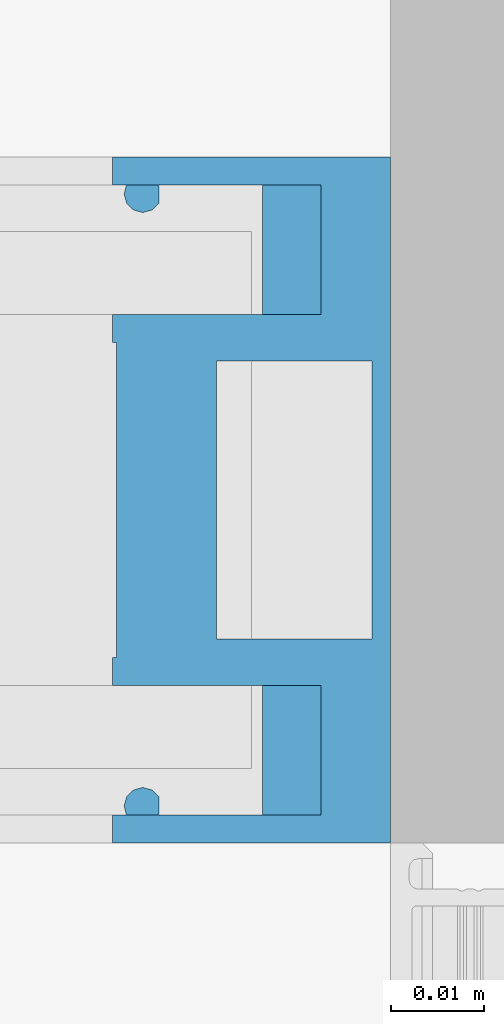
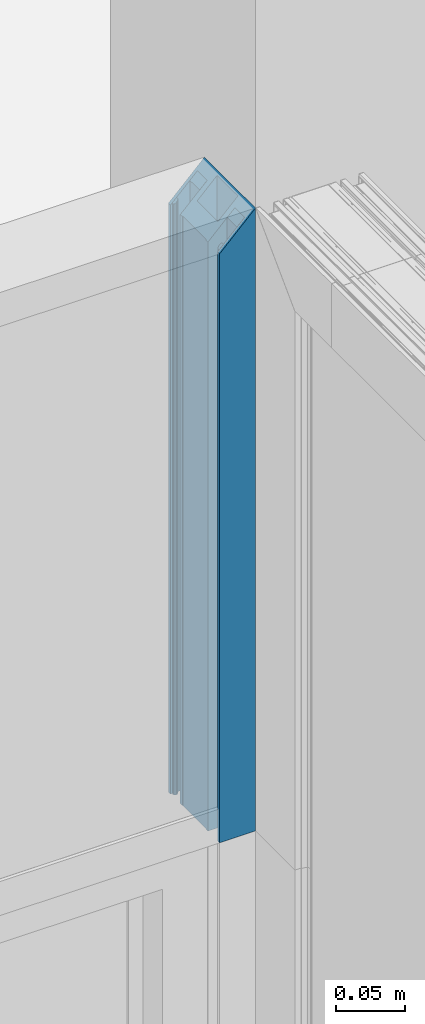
# One storey, part 31 of 62: 2 building element parts, 2 elements without a shape of their own.
"""IFC2X3 building model written with IfcOpenShell, lengths in millimetres."""

from ifc_helpers import new_model, entity, si_unit, converted_unit, derived_unit, money_unit, direction, frame, origin_with_axes, place, context, subcontext, project, spatial, faceted_brep, source, transform, mapped, material, type_object, element, aggregate, save


model = new_model("IFC2X3")

# Units and contexts
model_context = context("Model", 3, precision=0.01, world=origin_with_axes(), true_north=direction((0.0, 1.0)))
body_context = subcontext(model_context, "Body", "Model", "MODEL_VIEW")
ifc_project = project(units=[si_unit("LENGTHUNIT", "METRE", prefix="MILLI"), si_unit("AREAUNIT", "SQUARE_METRE"), si_unit("VOLUMEUNIT", "CUBIC_METRE"), converted_unit("PLANEANGLEUNIT", "DEGREE", entity("IfcPlaneAngleMeasure", 0.0174532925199), si_unit("PLANEANGLEUNIT", "RADIAN"), dimensions=[0, 0, 0, 0, 0, 0, 0]), si_unit("SOLIDANGLEUNIT", "STERADIAN"), money_unit("EUR"), converted_unit("TIMEUNIT", "Year", entity("IfcTimeMeasure", 31556926.0), si_unit("TIMEUNIT", "SECOND"), dimensions=[0, 0, 1, 0, 0, 0, 0]), si_unit("MASSUNIT", "GRAM", prefix="KILO"), si_unit("THERMODYNAMICTEMPERATUREUNIT", "DEGREE_CELSIUS"), si_unit("LUMINOUSINTENSITYUNIT", "LUMEN"), si_unit("ENERGYUNIT", "JOULE", prefix="MEGA"), derived_unit("THERMALCONDUCTANCEUNIT", [(si_unit("POWERUNIT", "WATT"), 1), (si_unit("LENGTHUNIT", "METRE"), -1), (si_unit("THERMODYNAMICTEMPERATUREUNIT", "KELVIN"), -1)]), derived_unit("SPECIFICHEATCAPACITYUNIT", [(si_unit("ENERGYUNIT", "JOULE"), 1), (si_unit("MASSUNIT", "GRAM", prefix="KILO"), -1), (si_unit("THERMODYNAMICTEMPERATUREUNIT", "KELVIN"), -1)]), derived_unit("MASSDENSITYUNIT", [(si_unit("MASSUNIT", "GRAM", prefix="KILO"), 1), (si_unit("VOLUMEUNIT", "CUBIC_METRE"), -1)])], contexts=[model_context])

# Site, building, storey
site_placement = place(None, origin_with_axes())
site = spatial("IfcSite", under=ifc_project, at=site_placement, Name="Puškini 31, Narva", CompositionType="ELEMENT")
building_placement = place(site_placement, origin_with_axes())
building = spatial("IfcBuilding", under=site, at=building_placement, Name="Narva Riigigümnaasium", CompositionType="ELEMENT")
storey_placement = place(building_placement, frame((0.0, 0.0, 660.0), z_axis=(0.0, 0.0, 1.0), x_axis=(1.0, 0.0, 0.0)))
storey = spatial("IfcBuildingStorey", under=building, at=storey_placement, Name="2.korrus +0.66", CompositionType="ELEMENT", Elevation=660.0)

# Curtain wall, member, building element parts
curtain_wall_type = type_object("IfcCurtainWallType", Name="Curtain Wall Type", PredefinedType="NOTDEFINED")
curtain_wall_placement = place(storey_placement, frame((45089.2571373, 223837.000216, -1.99739158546e-06), z_axis=(0.0, 0.0, 1.0), x_axis=(1.0, 0.0, 0.0)))
curtain_wall = element("IfcCurtainWall", 1, at=curtain_wall_placement, inside=storey, type_object=curtain_wall_type, Name="G-SKLF-52")
member_type = type_object("IfcMemberType", Name="30 x 37", PredefinedType="MULLION")
member_placement = place(curtain_wall_placement, frame((2410.74285627, 0.0, 2400.0), z_axis=(0.0, 0.0, 1.0), x_axis=(1.0, 0.0, 0.0)))
member = element("IfcMember", 2, at=member_placement, type_object=member_type, Name="G-SKLF-62-raam", ObjectType="MULLION")
aggregate(curtain_wall, [member])
ifc_material_1 = material(Name="Klaasvill")
shared_shape_1 = source(origin_with_axes(), body_context, "Body", "Brep", [
    faceted_brep([(-7.49999990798, 20.000000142, 0.0), (-7.49999990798, 20.000000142, 542.499955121), (-13.8499999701, 20.000000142, 536.149955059), (-13.8499999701, 20.000000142, 0.0), (-7.49999990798, 34.0161444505, 0.0), (-7.49999990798, 34.0161444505, 542.499955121), (-13.8499999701, 34.0161444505, 536.149955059), (-13.8499999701, 34.0161444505, 0.0)], [[[0, 1, 2, 3]], [[4, 5, 1, 0]], [[1, 5, 6, 2]], [[3, 2, 6, 7]], [[0, 3, 7, 4]], [[7, 6, 5, 4]]]),
    faceted_brep([(-24.987414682, 34.0161444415, 0.0), (-24.987414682, 34.0161444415, 525.012540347), (-25.004489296, 32.0307503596, 524.995465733), (-25.004489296, 32.0307503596, 0.0), (-28.5126239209, 34.0161444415, 0.0), (-28.5126239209, 34.0161444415, 521.487331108), (-28.7655837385, 33.0385325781, 521.234371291), (-28.4955493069, 32.0307503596, 521.504405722), (-27.75780152, 31.2930025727, 522.242153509), (-26.7500193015, 31.0229681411, 523.249935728), (-25.742237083, 31.2930025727, 524.257717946), (-25.742237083, 31.2930025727, 0.0), (-26.7500193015, 31.0229681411, 0.0), (-27.75780152, 31.2930025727, 0.0), (-28.4955493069, 32.0307503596, 0.0), (-28.7655837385, 33.0385325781, 0.0)], [[[0, 1, 2, 3]], [[4, 5, 1, 0]], [[1, 5, 6, 7, 8, 9, 10, 2]], [[3, 2, 10, 11]], [[0, 3, 11, 12, 13, 14, 15, 4]], [[15, 6, 5, 4]], [[14, 7, 6, 15]], [[13, 8, 7, 14]], [[12, 9, 8, 13]], [[11, 10, 9, 12]]]),
    faceted_brep([(-7.49999990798, -19.9999997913, 0.0), (-7.49999990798, -19.9999997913, 542.499955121), (-7.49999990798, -34.0161445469, 542.499955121), (-7.49999990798, -34.0161445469, 0.0), (-13.8499999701, -19.9999997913, 0.0), (-13.8499999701, -19.9999997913, 536.149955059), (-13.8499999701, -34.0161445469, 536.149955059), (-13.8499999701, -34.0161445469, 0.0)], [[[0, 1, 2, 3]], [[4, 5, 1, 0]], [[1, 5, 6, 2]], [[3, 2, 6, 7]], [[0, 3, 7, 4]], [[7, 6, 5, 4]]]),
    faceted_brep([(-25.004489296, -32.0307503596, 0.0), (-25.004489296, -32.0307503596, 524.995465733), (-24.987414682, -34.0161444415, 525.012540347), (-24.987414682, -34.0161444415, 0.0), (-25.742237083, -31.2930025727, 0.0), (-25.742237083, -31.2930025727, 524.257717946), (-26.7500193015, -31.0229681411, 523.249935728), (-27.75780152, -31.2930025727, 522.242153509), (-28.4955493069, -32.0307503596, 521.504405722), (-28.7655837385, -33.0385325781, 521.234371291), (-28.5126239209, -34.0161444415, 521.487331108), (-28.5126239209, -34.0161444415, 0.0), (-28.7655837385, -33.0385325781, 0.0), (-28.4955493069, -32.0307503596, 0.0), (-27.75780152, -31.2930025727, 0.0), (-26.7500193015, -31.0229681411, 0.0)], [[[0, 1, 2, 3]], [[4, 5, 1, 0]], [[1, 5, 6, 7, 8, 9, 10, 2]], [[3, 2, 10, 11]], [[0, 3, 11, 12, 13, 14, 15, 4]], [[15, 6, 5, 4]], [[14, 7, 6, 15]], [[13, 8, 7, 14]], [[12, 9, 8, 13]], [[11, 10, 9, 12]]]),
])
building_element_part_1_placement = place(member_placement, origin_with_axes())
building_element_part_1 = element("IfcBuildingElementPart", 3, at=building_element_part_1_placement, material=ifc_material_1, Name="Klaasvill", context=body_context, shape_type="MappedRepresentation", body=[
    mapped(shared_shape_1, transform((0.0, 0.0, 0.0))),
])
ifc_material_2 = material(Name="Teras RAL7012")
shared_shape_2 = source(origin_with_axes(), body_context, "Body", "Brep", [
    faceted_brep([(0.0, -17.0000000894, 0.0), (0.0, -17.0000000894, 549.999955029), (-29.5999996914, -17.0000000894, 520.399955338), (-29.5999996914, -17.0000000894, 0.0), (0.0, 17.0000000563, 0.0), (0.0, 17.0000000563, 549.999955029), (-29.5999996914, 17.0000000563, 520.399955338), (-1.9999999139, 15.0000001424, 547.999955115), (-1.9999999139, -15.0000001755, 547.999955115), (-18.7999996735, -15.0000001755, 531.199955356), (-18.7999996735, 15.0000001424, 531.199955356), (-29.5999996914, 17.0000000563, 0.0), (-1.9999999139, 15.0000001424, 0.0), (-18.7999996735, 15.0000001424, 0.0), (-18.7999996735, -15.0000001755, 0.0), (-1.9999999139, -15.0000001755, 0.0)], [[[0, 1, 2, 3]], [[4, 5, 1, 0]], [[1, 5, 6, 2], [7, 8, 9, 10]], [[3, 2, 6, 11]], [[0, 3, 11, 4], [12, 13, 14, 15]], [[11, 6, 5, 4]], [[15, 8, 7, 12]], [[14, 9, 8, 15]], [[13, 10, 9, 14]], [[12, 7, 10, 13]]]),
    faceted_brep([(0.0, 17.0, 0.0), (0.0, 17.0, 549.999955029), (-29.5999996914, 17.0000000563, 520.399955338), (-29.5999996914, 17.0000000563, 0.0), (0.0, 37.0, 0.0), (0.0, 37.0, 549.999955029), (-30.0000193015, 37.0, 519.999935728), (-30.0000193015, 34.0161444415, 519.999935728), (-28.5126239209, 34.0161444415, 521.487331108), (-24.987414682, 34.0161444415, 525.012540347), (-13.8499999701, 34.0161444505, 536.149955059), (-7.49999999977, 34.0161444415, 542.49995503), (-7.49999999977, 20.0, 542.49995503), (-13.8499999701, 20.000000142, 536.149955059), (-30.0000193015, 20.0, 519.999935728), (-30.0000193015, 17.0, 519.999935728), (-30.0000193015, 17.0, 0.0), (-30.0000193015, 20.0, 0.0), (-13.8499999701, 20.000000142, 0.0), (-7.49999999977, 20.0, 0.0), (-7.49999999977, 34.0161444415, 0.0), (-13.8499999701, 34.0161444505, 0.0), (-24.987414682, 34.0161444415, 0.0), (-28.5126239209, 34.0161444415, 0.0), (-30.0000193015, 34.0161444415, 0.0), (-30.0000193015, 37.0, 0.0)], [[[0, 1, 2, 3]], [[4, 5, 1, 0]], [[1, 5, 6, 7, 8, 9, 10, 11, 12, 13, 14, 15, 2]], [[3, 2, 15, 16]], [[0, 3, 16, 17, 18, 19, 20, 21, 22, 23, 24, 25, 4]], [[25, 6, 5, 4]], [[24, 7, 6, 25]], [[23, 8, 7, 24]], [[22, 9, 8, 23]], [[21, 10, 9, 22]], [[20, 11, 10, 21]], [[19, 12, 11, 20]], [[18, 13, 12, 19]], [[17, 14, 13, 18]], [[16, 15, 14, 17]]]),
    faceted_brep([(0.0, -17.0, 0.0), (0.0, -17.0, 549.999955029), (0.0, -37.0, 549.999955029), (0.0, -37.0, 0.0), (-29.5999996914, -17.0000000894, 0.0), (-29.5999996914, -17.0000000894, 520.399955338), (-30.0000193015, -17.0, 519.999935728), (-30.0000193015, -20.0, 519.999935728), (-13.8499999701, -19.9999997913, 536.149955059), (-7.49999999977, -20.0, 542.49995503), (-7.49999999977, -34.0161444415, 542.49995503), (-13.8499999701, -34.0161445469, 536.149955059), (-24.987414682, -34.0161444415, 525.012540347), (-28.5126239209, -34.0161444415, 521.487331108), (-30.0000193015, -34.0161444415, 519.999935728), (-30.0000193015, -37.0, 519.999935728), (-30.0000193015, -37.0, 0.0), (-30.0000193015, -34.0161444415, 0.0), (-28.5126239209, -34.0161444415, 0.0), (-24.987414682, -34.0161444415, 0.0), (-13.8499999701, -34.0161445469, 0.0), (-7.49999999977, -34.0161444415, 0.0), (-7.49999999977, -20.0, 0.0), (-13.8499999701, -19.9999997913, 0.0), (-30.0000193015, -20.0, 0.0), (-30.0000193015, -17.0, 0.0)], [[[0, 1, 2, 3]], [[4, 5, 1, 0]], [[1, 5, 6, 7, 8, 9, 10, 11, 12, 13, 14, 15, 2]], [[3, 2, 15, 16]], [[0, 3, 16, 17, 18, 19, 20, 21, 22, 23, 24, 25, 4]], [[25, 6, 5, 4]], [[24, 7, 6, 25]], [[23, 8, 7, 24]], [[22, 9, 8, 23]], [[21, 10, 9, 22]], [[20, 11, 10, 21]], [[19, 12, 11, 20]], [[18, 13, 12, 19]], [[17, 14, 13, 18]], [[16, 15, 14, 17]]]),
])
building_element_part_2_placement = place(member_placement, origin_with_axes())
building_element_part_2 = element("IfcBuildingElementPart", 4, at=building_element_part_2_placement, material=ifc_material_2, Name="Teras RAL7012", context=body_context, shape_type="MappedRepresentation", body=[
    mapped(shared_shape_2, transform((0.0, 0.0, 0.0))),
])
aggregate(member, [building_element_part_1, building_element_part_2])

save(model, "model.ifc")
